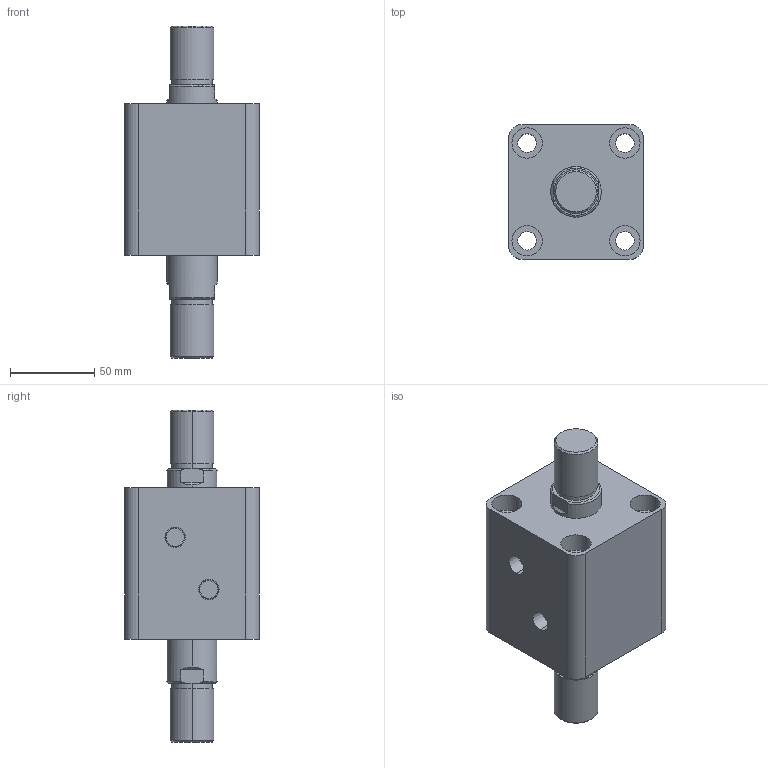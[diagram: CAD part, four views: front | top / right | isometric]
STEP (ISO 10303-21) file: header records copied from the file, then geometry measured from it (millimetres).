
FILE_DESCRIPTION (( 'STEP AP203' ), '1' );
FILE_NAME ('HTB-SW50-15W.STEP', '2019-10-07T09:17:40', ( '微软用户' ), ( '微软中国' ), 'SwSTEP 2.0', 'SolidWorks 2012', '' );
FILE_SCHEMA (( 'CONFIG_CONTROL_DESIGN' ));
Length unit declared in the file: millimetre
Products named in the file (3): HTB-SW50-15W活塞杆; HTB-SW50-15掛极; HTB-SW50-15W
Assembly tree (2 placements, depth 2):
  HTB-SW50-15W
    HTB-SW50-15掛极
    HTB-SW50-15W活塞杆
Bounding box: 80 x 80 x 197 mm (x, y, z)
Volume: 564188.9 mm3; surface area: 89398.5 mm2
Topology: 2 solids, 2 shells, 108 faces, 240 edges, 156 vertices
Faces by surface type: cylinder 52, plane 36, torus 12, cone 8
Entity records: 3449 total; most frequent: CARTESIAN_POINT 629, DIRECTION 586, ORIENTED_EDGE 480, AXIS2_PLACEMENT_3D 249, EDGE_CURVE 240, VERTEX_POINT 156, EDGE_LOOP 138, CIRCLE 136
